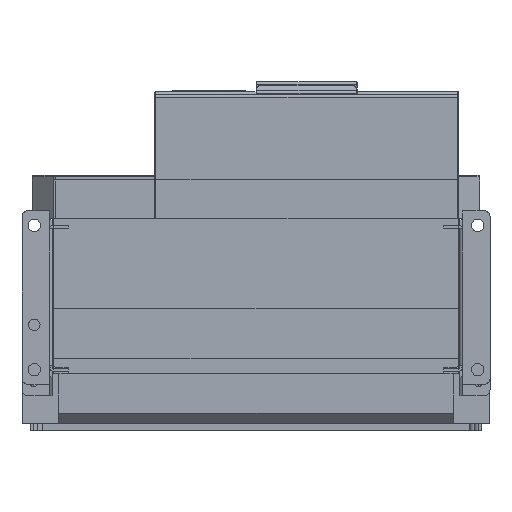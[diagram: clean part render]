
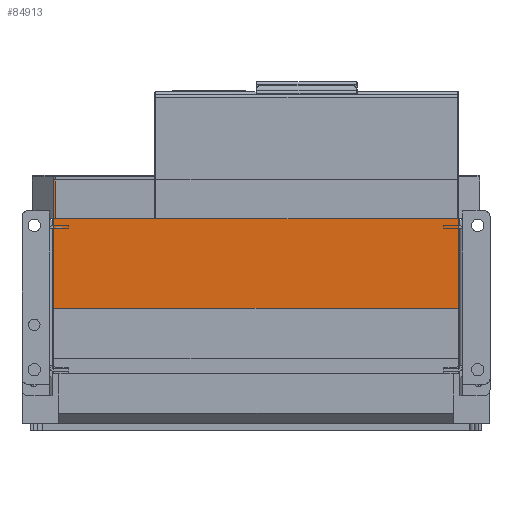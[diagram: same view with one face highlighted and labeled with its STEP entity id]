
A CAD part, front view. The second image highlights one B-rep face of the part: STEP entity #84913.
In plain terms, the highlighted planar face has unit normal (0, -1, 0).
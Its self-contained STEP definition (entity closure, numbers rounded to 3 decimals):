
#5013 = CARTESIAN_POINT ( 'NONE',  ( 105., -132., 385.556 ) ) ;
#8904 = LINE ( 'NONE', #37856, #90502 ) ;
#11603 = DIRECTION ( 'NONE',  ( 0., 0., 1. ) ) ;
#11608 = VERTEX_POINT ( 'NONE', #50972 ) ;
#15451 = VERTEX_POINT ( 'NONE', #123647 ) ;
#16995 = ORIENTED_EDGE ( 'NONE', *, *, #149549, .F. ) ;
#19326 = CARTESIAN_POINT ( 'NONE',  ( 105., -132., -96.5 ) ) ;
#21464 = PLANE ( 'NONE',  #142251 ) ;
#22495 = DIRECTION ( 'NONE',  ( 0., 1., 0. ) ) ;
#22497 = ORIENTED_EDGE ( 'NONE', *, *, #30856, .T. ) ;
#28099 = ORIENTED_EDGE ( 'NONE', *, *, #34422, .F. ) ;
#28869 = DIRECTION ( 'NONE',  ( 0., 0., -1. ) ) ;
#30058 = LINE ( 'NONE', #37333, #59600 ) ;
#30856 = EDGE_CURVE ( 'NONE', #11608, #15451, #48666, .T. ) ;
#34422 = EDGE_CURVE ( 'NONE', #45260, #15451, #98019, .T. ) ;
#36938 = VECTOR ( 'NONE', #28869, 1000. ) ;
#37333 = CARTESIAN_POINT ( 'NONE',  ( 105., -132., 27. ) ) ;
#37856 = CARTESIAN_POINT ( 'NONE',  ( -174.925, -132., 385.556 ) ) ;
#39726 = VERTEX_POINT ( 'NONE', #70817 ) ;
#45260 = VERTEX_POINT ( 'NONE', #59808 ) ;
#48666 = LINE ( 'NONE', #19326, #130087 ) ;
#50272 = DIRECTION ( 'NONE',  ( 0., 0., -1. ) ) ;
#50972 = CARTESIAN_POINT ( 'NONE',  ( -174.925, -132., -96.5 ) ) ;
#58095 = ORIENTED_EDGE ( 'NONE', *, *, #92203, .T. ) ;
#59600 = VECTOR ( 'NONE', #120156, 1000. ) ;
#59808 = CARTESIAN_POINT ( 'NONE',  ( 105., -132., 27. ) ) ;
#69597 = EDGE_LOOP ( 'NONE', ( #16995, #58095, #22497, #28099 ) ) ;
#70817 = CARTESIAN_POINT ( 'NONE',  ( -174.925, -132., 27. ) ) ;
#80075 = FACE_OUTER_BOUND ( 'NONE', #69597, .T. ) ;
#84913 = ADVANCED_FACE ( 'NONE', ( #80075 ), #21464, .F. ) ;
#90502 = VECTOR ( 'NONE', #50272, 1000. ) ;
#92203 = EDGE_CURVE ( 'NONE', #39726, #11608, #8904, .T. ) ;
#98019 = LINE ( 'NONE', #5013, #36938 ) ;
#118285 = CARTESIAN_POINT ( 'NONE',  ( 105., -132., 385.556 ) ) ;
#120156 = DIRECTION ( 'NONE',  ( 1., 0., 0. ) ) ;
#123647 = CARTESIAN_POINT ( 'NONE',  ( 105., -132., -96.5 ) ) ;
#130087 = VECTOR ( 'NONE', #150892, 1000. ) ;
#142251 = AXIS2_PLACEMENT_3D ( 'NONE', #118285, #22495, #11603 ) ;
#149549 = EDGE_CURVE ( 'NONE', #39726, #45260, #30058, .T. ) ;
#150892 = DIRECTION ( 'NONE',  ( 1., 0., 0. ) ) ;
